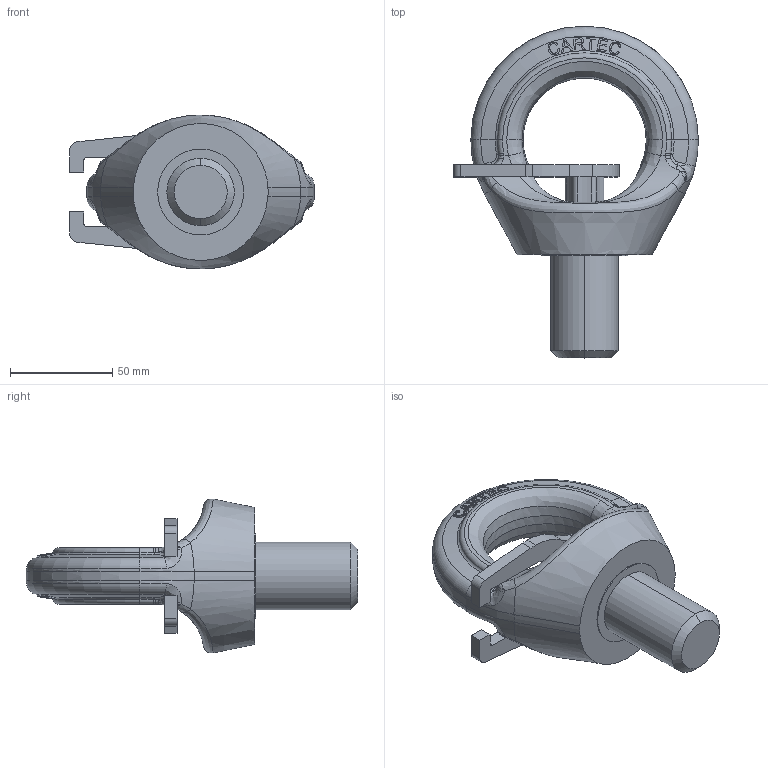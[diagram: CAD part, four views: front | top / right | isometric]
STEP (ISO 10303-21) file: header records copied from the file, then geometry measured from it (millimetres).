
FILE_DESCRIPTION(('STEP AP214'),'1');
FILE_NAME('c807ht33.stp','2017-03-27T13:35:36',('TraceParts'),('TraceParts S.A.'),'Spatial InterOp 3D',' ',' ');
FILE_SCHEMA(('automotive_design'));
Length unit declared in the file: millimetre
Products named in the file (3): c807ht33_1; c807ht33_2; c807ht33_3
Bounding box: 119.57 x 162.16 x 75.17 mm (x, y, z)
Volume: 287692.8 mm3; surface area: 54902.9 mm2
Topology: 3 solids, 3 shells, 417 faces, 1107 edges, 685 vertices
Faces by surface type: bspline 199, plane 130, cylinder 55, torus 19, cone 14
Entity records: 30581 total; most frequent: CARTESIAN_POINT 18106, ORIENTED_EDGE 2156, DIRECTION 1522, EDGE_CURVE 1078, VERTEX_POINT 685, AXIS2_PLACEMENT_3D 572, EDGE_LOOP 439, STYLED_ITEM 420
